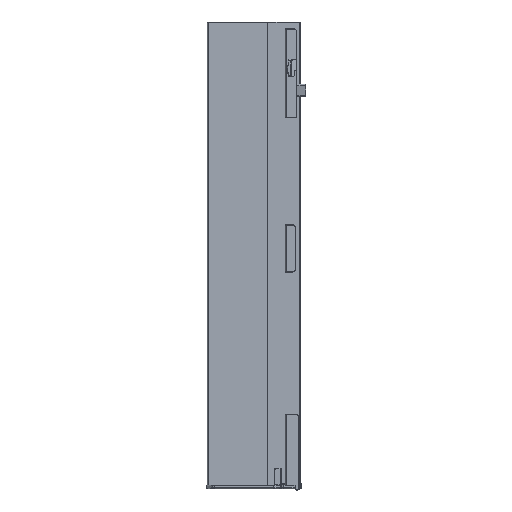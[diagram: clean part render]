
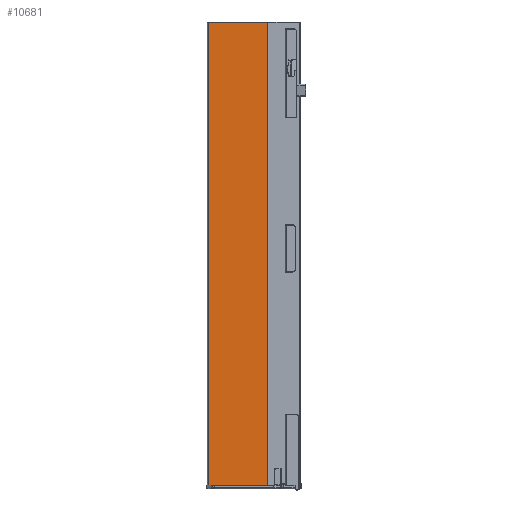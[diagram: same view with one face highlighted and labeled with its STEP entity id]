
A CAD part, left-side view. The second image highlights one B-rep face of the part: STEP entity #10681.
In plain terms, the highlighted planar face has unit normal (-1, 0, 0).
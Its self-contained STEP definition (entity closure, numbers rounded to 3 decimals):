
#84 = EDGE_CURVE ( 'NONE', #12627, #11641, #10583, .T. ) ;
#110 = EDGE_CURVE ( 'NONE', #11308, #12796, #1689, .T. ) ;
#745 = CARTESIAN_POINT ( 'NONE',  ( 0.5, -0.5, 0. ) ) ;
#790 = DIRECTION ( 'NONE',  ( 0., 1., 0. ) ) ;
#1689 = LINE ( 'NONE', #4196, #9916 ) ;
#1884 = PLANE ( 'NONE',  #5869 ) ;
#2188 = EDGE_CURVE ( 'NONE', #11308, #11641, #2337, .T. ) ;
#2337 = LINE ( 'NONE', #745, #7691 ) ;
#2597 = CARTESIAN_POINT ( 'NONE',  ( 0.5, 0., -437.8 ) ) ;
#3364 = ORIENTED_EDGE ( 'NONE', *, *, #12077, .T. ) ;
#3620 = DIRECTION ( 'NONE',  ( 0., 0., -1. ) ) ;
#4196 = CARTESIAN_POINT ( 'NONE',  ( 0.5, 0., -449. ) ) ;
#4927 = CARTESIAN_POINT ( 'NONE',  ( 0.5, 55.8, 0. ) ) ;
#5211 = DIRECTION ( 'NONE',  ( 0., 0., 1. ) ) ;
#5454 = CARTESIAN_POINT ( 'NONE',  ( 0.5, 55.8, -437.8 ) ) ;
#5869 = AXIS2_PLACEMENT_3D ( 'NONE', #6210, #13662, #7273 ) ;
#5973 = LINE ( 'NONE', #12716, #11664 ) ;
#6210 = CARTESIAN_POINT ( 'NONE',  ( 0.5, -0.5, -449. ) ) ;
#6318 = DIRECTION ( 'NONE',  ( 0., -1., 0. ) ) ;
#7141 = ORIENTED_EDGE ( 'NONE', *, *, #110, .F. ) ;
#7273 = DIRECTION ( 'NONE',  ( 0., 0., -1. ) ) ;
#7691 = VECTOR ( 'NONE', #790, 1000. ) ;
#7817 = ORIENTED_EDGE ( 'NONE', *, *, #84, .F. ) ;
#9916 = VECTOR ( 'NONE', #3620, 1000. ) ;
#10032 = EDGE_LOOP ( 'NONE', ( #7817, #3364, #7141, #12703 ) ) ;
#10583 = LINE ( 'NONE', #12664, #13058 ) ;
#10681 = ADVANCED_FACE ( 'NONE', ( #13536 ), #1884, .T. ) ;
#11308 = VERTEX_POINT ( 'NONE', #11780 ) ;
#11641 = VERTEX_POINT ( 'NONE', #4927 ) ;
#11664 = VECTOR ( 'NONE', #6318, 1000. ) ;
#11780 = CARTESIAN_POINT ( 'NONE',  ( 0.5, 0., 0. ) ) ;
#12077 = EDGE_CURVE ( 'NONE', #12627, #12796, #5973, .T. ) ;
#12627 = VERTEX_POINT ( 'NONE', #5454 ) ;
#12664 = CARTESIAN_POINT ( 'NONE',  ( 0.5, 55.8, -449. ) ) ;
#12703 = ORIENTED_EDGE ( 'NONE', *, *, #2188, .T. ) ;
#12716 = CARTESIAN_POINT ( 'NONE',  ( 0.5, 0., -437.8 ) ) ;
#12796 = VERTEX_POINT ( 'NONE', #2597 ) ;
#13058 = VECTOR ( 'NONE', #5211, 1000. ) ;
#13536 = FACE_OUTER_BOUND ( 'NONE', #10032, .T. ) ;
#13662 = DIRECTION ( 'NONE',  ( -1., 0., 0. ) ) ;
